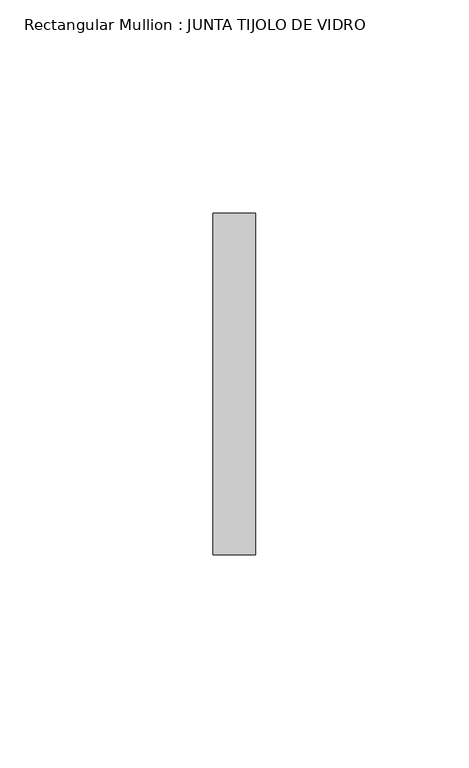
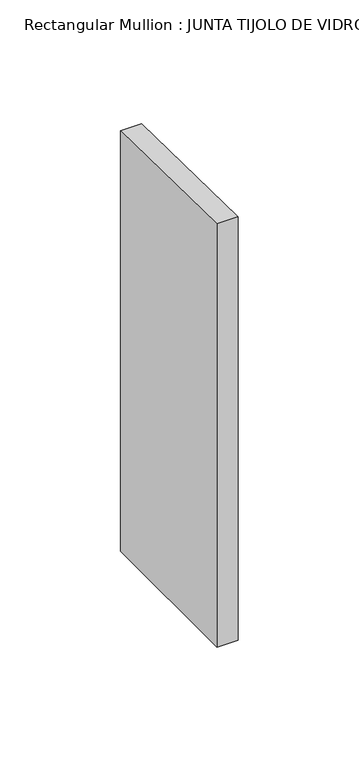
"""IFC4 building model written with IfcOpenShell, lengths in millimetres: member geometry, Rectangular Mullion : JUNTA TIJOLO DE VIDRO."""

from ifc_helpers import new_model, si_unit, frame, origin, place, context, project, spatial, polyline, outline, extrude, source, transform, mapped, element, save


def rectangular_mullion_junta_tijolo_de_vidro_b0f3a276(model_context):
    return source(origin(), model_context, "Body", "SweptSolid", [
        extrude(outline(polyline([(-40.0, 0.7574551), (40.0, -0.7574551), (40.0, -213.1818182), (-40.0, -213.1818182), (-40.0, 0.7574551)])), frame((-10.0, 0.0, 0.0), z_axis=(1.0, 0.0, 0.0), x_axis=(0.0, 1.0, 0.0)), (0.0, 0.0, 1.0), 10.0),
    ])


if __name__ == "__main__":
    model = new_model("IFC4")
    model_context = context("Model", 3, world=origin())
    ifc_project = project(units=[si_unit("LENGTHUNIT", "METRE", prefix="MILLI")], contexts=[model_context])
    site = spatial("IfcSite", under=ifc_project)
    building = spatial("IfcBuilding", under=site)
    placement = place(None, origin())
    rectangular_mullion_junta_tijolo_de_vidro_shape = rectangular_mullion_junta_tijolo_de_vidro_b0f3a276(model_context)
    element("IfcMember", 1, ObjectType="Rectangular Mullion : JUNTA TIJOLO DE VIDRO", at=placement, inside=building, context=model_context, shape_type="MappedRepresentation", body=[
        mapped(rectangular_mullion_junta_tijolo_de_vidro_shape, transform((0.0, 0.0, 0.0), x_axis=(1.0, 0.0, 0.0), y_axis=(0.0, 1.0, 0.0), z_axis=(0.0, 0.0, 1.0))),
    ])
    save(model, "model.ifc")
